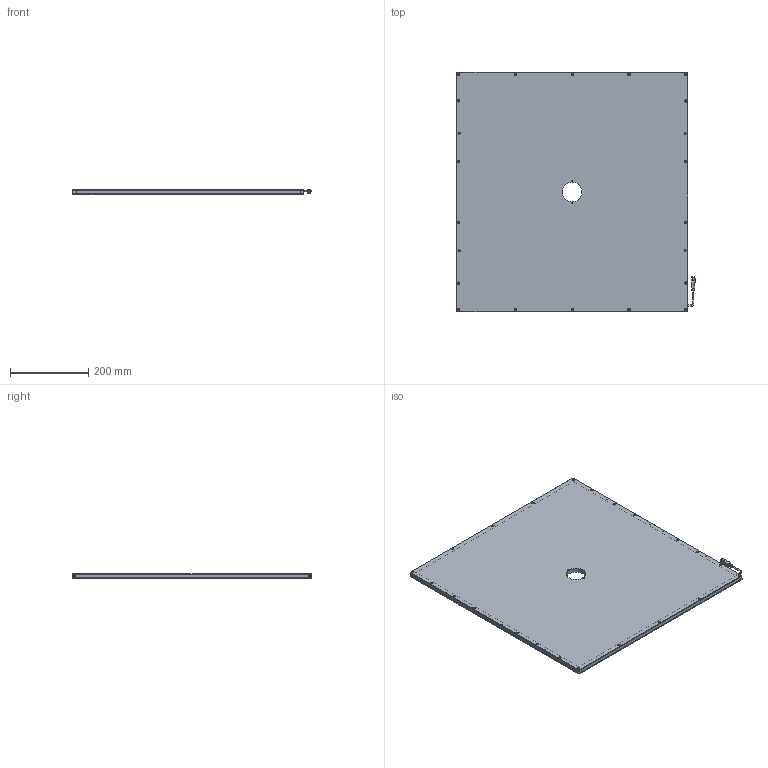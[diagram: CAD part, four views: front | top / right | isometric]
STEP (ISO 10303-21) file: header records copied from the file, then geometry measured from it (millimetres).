
FILE_DESCRIPTION (( 'STEP AP203' ), '1' );
FILE_NAME ('CRT-KFLC570550Y50-¼òÒ×3DÍ¼.STEP', '2021-11-30T05:47:38', ( 'Admin' ), ( '' ), 'SwSTEP 2.0', 'SolidWorks 2018', '' );
FILE_SCHEMA (( 'CONFIG_CONTROL_DESIGN' ));
Length unit declared in the file: millimetre
Products named in the file (1): CRT-KFLC570550Y50-潠眢3D芞
Bounding box: 609.45 x 610 x 14.85 mm (x, y, z)
Surface area: 1170525.1 mm2 (no closed solid volume)
Topology: 0 solids, 19 shells, 281 faces, 952 edges, 673 vertices
Faces by surface type: cylinder 123, plane 111, cone 43, bspline 4
Entity records: 10881 total; most frequent: CARTESIAN_POINT 2403, DIRECTION 1815, ORIENTED_EDGE 1505, EDGE_CURVE 952, VERTEX_POINT 673, AXIS2_PLACEMENT_3D 630, LINE 555, VECTOR 555
